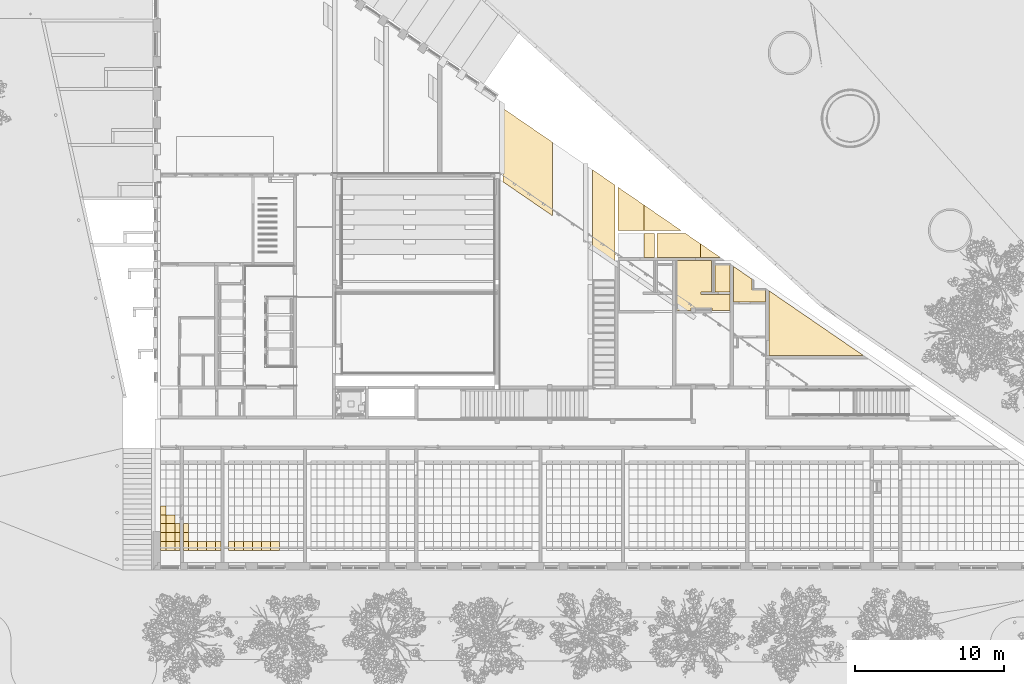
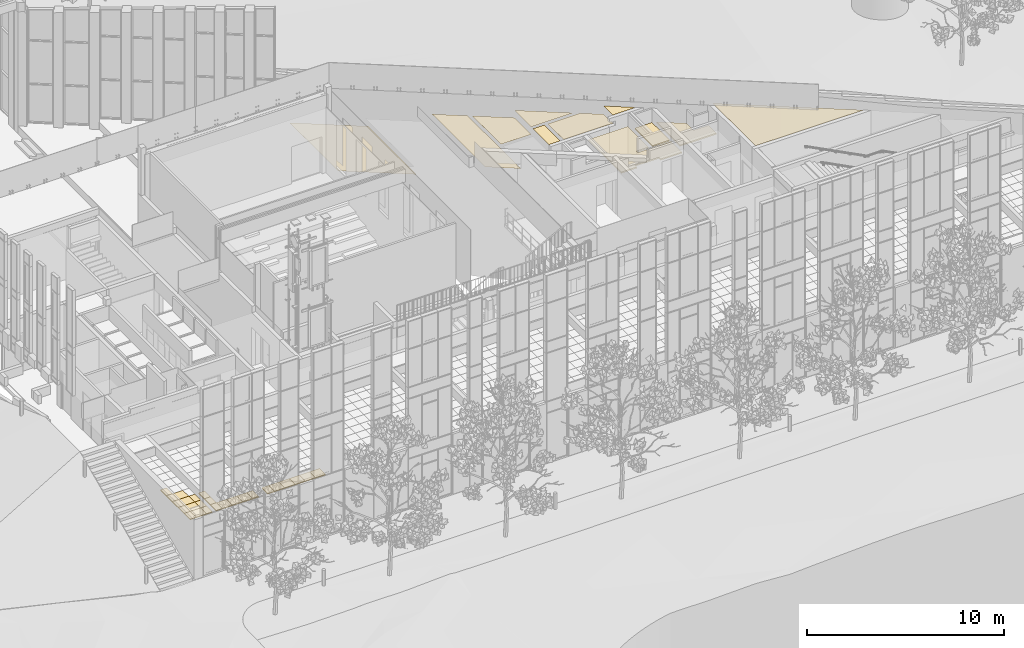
# One storey, part 187 of 246: 36 coverings.
"""IFC2X3 building model written with IfcOpenShell, lengths in millimetres."""

from ifc_helpers import new_model, entity, si_unit, converted_unit, derived_unit, money_unit, direction, frame, origin_with_axes, place, context, subcontext, project, spatial, faceted_brep, material, material_list, type_object, element, save


model = new_model("IFC2X3")

# Units and contexts
model_context = context("Model", 3, precision=0.01, world=origin_with_axes(), true_north=direction((0.0, 1.0)))
body_context = subcontext(model_context, "Body", "Model", "MODEL_VIEW")
ifc_project = project(units=[si_unit("LENGTHUNIT", "METRE", prefix="MILLI"), si_unit("AREAUNIT", "SQUARE_METRE"), si_unit("VOLUMEUNIT", "CUBIC_METRE"), converted_unit("PLANEANGLEUNIT", "DEGREE", entity("IfcPlaneAngleMeasure", 0.0174532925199), si_unit("PLANEANGLEUNIT", "RADIAN"), dimensions=[0, 0, 0, 0, 0, 0, 0]), si_unit("SOLIDANGLEUNIT", "STERADIAN"), money_unit("EUR"), converted_unit("TIMEUNIT", "Year", entity("IfcTimeMeasure", 31556926.0), si_unit("TIMEUNIT", "SECOND"), dimensions=[0, 0, 1, 0, 0, 0, 0]), si_unit("MASSUNIT", "GRAM", prefix="KILO"), si_unit("THERMODYNAMICTEMPERATUREUNIT", "DEGREE_CELSIUS"), si_unit("LUMINOUSINTENSITYUNIT", "LUMEN"), si_unit("ENERGYUNIT", "JOULE", prefix="MEGA"), derived_unit("THERMALCONDUCTANCEUNIT", [(si_unit("POWERUNIT", "WATT"), 1), (si_unit("LENGTHUNIT", "METRE"), -1), (si_unit("THERMODYNAMICTEMPERATUREUNIT", "KELVIN"), -1)]), derived_unit("SPECIFICHEATCAPACITYUNIT", [(si_unit("ENERGYUNIT", "JOULE"), 1), (si_unit("MASSUNIT", "GRAM", prefix="KILO"), -1), (si_unit("THERMODYNAMICTEMPERATUREUNIT", "KELVIN"), -1)]), derived_unit("MASSDENSITYUNIT", [(si_unit("MASSUNIT", "GRAM", prefix="KILO"), 1), (si_unit("VOLUMEUNIT", "CUBIC_METRE"), -1)])], contexts=[model_context])

# Site, building, storey
site_placement = place(None, origin_with_axes())
site = spatial("IfcSite", under=ifc_project, at=site_placement, Name="L.Koidula tn 11b", CompositionType="ELEMENT")
building_placement = place(site_placement, origin_with_axes())
building = spatial("IfcBuilding", under=site, at=building_placement, Name="Rakvere Riigigümnaasium", CompositionType="ELEMENT")
storey_placement = place(building_placement, origin_with_axes())
storey = spatial("IfcBuildingStorey", under=building, at=storey_placement, Name="1.korrus 0,00", CompositionType="ELEMENT", Elevation=0.0)

# Coverings
ifc_material_1 = material(Name="mineraalvill+karkass")
ifc_material_2 = material(Name="SKR-02_Kipsplaat")
ifc_material_list_1 = material_list([ifc_material_1, ifc_material_2])
covering_type_1 = type_object("IfcCoveringType", Name="SA-LV-kips 79", PredefinedType="CEILING")
covering_1_placement = place(storey_placement, frame((72614.9981872, 23588.9421393, 2400.0), z_axis=(0.0, 0.0, 1.0), x_axis=(1.0, 0.0, 0.0)))
element("IfcCovering", 1, at=covering_1_placement, inside=storey, type_object=covering_type_1, material=ifc_material_list_1, Name="L-05", PredefinedType="CEILING", context=body_context, shape_type="Brep", body=[
    faceted_brep([(999.999983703, 0.0, 12.5), (999.999983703, 0.0, 78.5), (0.0, 0.0, 78.5), (0.0, 0.0, 12.5), (999.999983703, 1800.47375207, 12.5), (999.999983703, 1800.47375207, 78.5), (0.0, 1800.47375207, 78.5), (0.0, 1800.47375207, 12.5)], [[[0, 1, 2, 3]], [[4, 5, 1, 0]], [[2, 1, 5, 6]], [[3, 2, 6, 7]], [[3, 7, 4, 0]], [[7, 6, 5, 4]]]),
    faceted_brep([(0.0, 0.0, 0.0), (999.999983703, 0.0, 0.0), (999.999983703, 0.0, 12.5), (0.0, 0.0, 12.5), (0.0, 1800.47375207, 0.0), (999.999983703, 1800.47375207, 0.0), (999.999983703, 1800.47375207, 12.5), (0.0, 1800.47375207, 12.5)], [[[0, 1, 2, 3]], [[0, 4, 5, 1]], [[1, 5, 6, 2]], [[3, 2, 6, 7]], [[4, 0, 3, 7]], [[5, 4, 7, 6]]]),
])
covering_2_placement = place(storey_placement, frame((70071.4873298, 25688.9371917, 2400.0), z_axis=(0.0, 0.0, 1.0), x_axis=(1.0, 0.0, 0.0)))
element("IfcCovering", 2, at=covering_2_placement, inside=storey, type_object=covering_type_1, material=ifc_material_list_1, Name="L-05", PredefinedType="CEILING", context=body_context, shape_type="Brep", body=[
    faceted_brep([(0.0, -3333.48385499, 12.5), (0.0, -3333.48385499, 78.5), (0.0, 0.0, 78.5), (0.0, 0.0, 12.5), (913.510743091, -3333.48385499, 12.5), (913.510743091, -3333.48385499, 78.5), (913.510743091, -3150.17834669, 78.5), (2313.5, -3150.17834669, 78.5), (2313.5, -3333.48385499, 78.5), (3543.5108411, -3333.48385499, 78.5), (3543.5108411, -2257.49461025, 78.5), (1588.51088275, -2257.49461025, 78.5), (1588.51088275, -2107.49461352, 78.5), (2302.01084784, -2107.49461352, 78.5), (2302.01084784, 0.0, 78.5), (1588.51088275, 0.0, 78.5), (1588.51088275, 0.0, 12.5), (2302.01084784, 0.0, 12.5), (2302.01084784, -2107.49461352, 12.5), (1588.51088275, -2107.49461352, 12.5), (1588.51088275, -2257.49461025, 12.5), (3543.5108411, -2257.49461025, 12.5), (3543.5108411, -3333.48385499, 12.5), (2313.5, -3333.48385499, 12.5), (2313.5, -3150.17834669, 12.5), (913.510743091, -3150.17834669, 12.5)], [[[0, 1, 2, 3]], [[4, 5, 1, 0]], [[2, 1, 5, 6, 7, 8, 9, 10, 11, 12, 13, 14, 15]], [[3, 2, 15, 16]], [[3, 16, 17, 18, 19, 20, 21, 22, 23, 24, 25, 4, 0]], [[25, 6, 5, 4]], [[24, 7, 6, 25]], [[23, 8, 7, 24]], [[22, 9, 8, 23]], [[21, 10, 9, 22]], [[20, 11, 10, 21]], [[19, 12, 11, 20]], [[18, 13, 12, 19]], [[17, 14, 13, 18]], [[16, 15, 14, 17]]]),
    faceted_brep([(0.0, 0.0, 0.0), (0.0, -3333.48385499, 0.0), (0.0, -3333.48385499, 12.5), (0.0, 0.0, 12.5), (1588.51088275, 0.0, 0.0), (2302.01084784, 0.0, 0.0), (2302.01084784, -2107.49461352, 0.0), (1588.51088275, -2107.49461352, 0.0), (1588.51088275, -2257.49461025, 0.0), (3543.5108411, -2257.49461025, 0.0), (3543.5108411, -3333.48385499, 0.0), (2313.5, -3333.48385499, 0.0), (2313.5, -3150.17834669, 0.0), (913.510743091, -3150.17834669, 0.0), (913.510743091, -3333.48385499, 0.0), (913.510743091, -3333.48385499, 12.5), (913.510743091, -3150.17834669, 12.5), (2313.5, -3150.17834669, 12.5), (2313.5, -3333.48385499, 12.5), (3543.5108411, -3333.48385499, 12.5), (3543.5108411, -2257.49461025, 12.5), (1588.51088275, -2257.49461025, 12.5), (1588.51088275, -2107.49461352, 12.5), (2302.01084784, -2107.49461352, 12.5), (2302.01084784, 0.0, 12.5), (1588.51088275, 0.0, 12.5)], [[[0, 1, 2, 3]], [[0, 4, 5, 6, 7, 8, 9, 10, 11, 12, 13, 14, 1]], [[1, 14, 15, 2]], [[3, 2, 15, 16, 17, 18, 19, 20, 21, 22, 23, 24, 25]], [[4, 0, 3, 25]], [[5, 4, 25, 24]], [[6, 5, 24, 23]], [[7, 6, 23, 22]], [[8, 7, 22, 21]], [[9, 8, 21, 20]], [[10, 9, 20, 19]], [[11, 10, 19, 18]], [[12, 11, 18, 17]], [[13, 12, 17, 16]], [[14, 13, 16, 15]]]),
])
covering_3_placement = place(storey_placement, frame((73839.9981709, 22929.9371768, 2400.0), z_axis=(0.0, 0.0, 1.0), x_axis=(1.0, 0.0, 0.0)))
element("IfcCovering", 3, at=covering_3_placement, inside=storey, type_object=covering_type_1, material=ifc_material_list_1, Name="L-05", PredefinedType="CEILING", context=body_context, shape_type="Brep", body=[
    faceted_brep([(2139.9514472, 0.0, 12.5), (2139.9514472, 0.0, 78.5), (0.0, 0.0, 78.5), (0.0, 0.0, 12.5), (2139.97882629, 799.999982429, 12.5), (2139.97882629, 799.999982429, 78.5), (1249.95783911, 799.999982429, 78.5), (1249.95783911, 1519.62656609, 78.5), (0.0, 2376.94444894, 78.5), (0.0, 2376.94444894, 12.5), (1249.95783911, 1519.62656609, 12.5), (1249.95783911, 799.999982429, 12.5)], [[[0, 1, 2, 3]], [[4, 5, 1, 0]], [[2, 1, 5, 6, 7, 8]], [[3, 2, 8, 9]], [[3, 9, 10, 11, 4, 0]], [[11, 6, 5, 4]], [[10, 7, 6, 11]], [[9, 8, 7, 10]]]),
    faceted_brep([(0.0, 0.0, 0.0), (2139.9514472, 0.0, 0.0), (2139.9514472, 0.0, 12.5), (0.0, 0.0, 12.5), (0.0, 2376.94444894, 0.0), (1249.95783911, 1519.62656609, 0.0), (1249.95783911, 799.999982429, 0.0), (2139.97882629, 799.999982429, 0.0), (2139.97882629, 799.999982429, 12.5), (1249.95783911, 799.999982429, 12.5), (1249.95783911, 1519.62656609, 12.5), (0.0, 2376.94444894, 12.5)], [[[0, 1, 2, 3]], [[0, 4, 5, 6, 7, 1]], [[1, 7, 8, 2]], [[3, 2, 8, 9, 10, 11]], [[4, 0, 3, 11]], [[5, 4, 11, 10]], [[6, 5, 10, 9]], [[7, 6, 9, 8]]]),
])
ifc_material_3 = material(Name="Karkass")
ifc_material_4 = material(Name="Kipsplaat")
ifc_material_list_2 = material_list([ifc_material_3, ifc_material_4])
covering_type_2 = type_object("IfcCoveringType", Name="SA-LV-Kips-moodul 55", PredefinedType="CEILING")
for number, where, z_axis, x_axis, name in (
    (4, (36455.0000521, 7490.4544728, 2750.0), (0.0, 0.0, 1.0), (1.0, 0.0, 0.0), "L-03"),
    (5, (36455.0000521, 6290.4544728, 2750.0), (0.0, 0.0, 1.0), (1.0, 0.0, 0.0), "L-03"),
    (6, (36455.0000521, 6890.4544728, 2750.0), (0.0, 0.0, 1.0), (1.0, 0.0, 0.0), "L-03"),
):
    element("IfcCovering", number, at=place(storey_placement, frame(where, z_axis=z_axis, x_axis=x_axis)), inside=storey, type_object=covering_type_2, material=ifc_material_list_2, Name=name, PredefinedType="CEILING", context=body_context, shape_type="Brep", body=[
        faceted_brep([(354.999948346, 0.0, 12.5), (354.999948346, 0.0, 54.5), (0.0, 0.0, 54.5), (0.0, 0.0, 12.5), (354.999948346, 600.0, 12.5), (354.999948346, 600.0, 54.5), (0.0, 600.0, 54.5), (0.0, 600.0, 12.5)], [[[0, 1, 2, 3]], [[4, 5, 1, 0]], [[2, 1, 5, 6]], [[3, 2, 6, 7]], [[3, 7, 4, 0]], [[7, 6, 5, 4]]]),
        faceted_brep([(0.0, 0.0, 0.0), (354.999948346, 0.0, 0.0), (354.999948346, 0.0, 12.5), (0.0, 0.0, 12.5), (0.0, 600.0, 0.0), (354.999948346, 600.0, 0.0), (354.999948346, 600.0, 12.5), (0.0, 600.0, 12.5)], [[[0, 1, 2, 3]], [[0, 4, 5, 1]], [[1, 5, 6, 2]], [[3, 2, 6, 7]], [[4, 0, 3, 7]], [[5, 4, 7, 6]]]),
    ])
covering_4_placement = place(storey_placement, frame((35500.0000521, 7490.4544728, 2750.0), z_axis=(0.0, 0.0, 1.0), x_axis=(1.0, 0.0, 0.0)))
element("IfcCovering", 7, at=covering_4_placement, inside=storey, type_object=covering_type_2, material=ifc_material_list_2, Name="L-03", PredefinedType="CEILING", context=body_context, shape_type="Brep", body=[
    faceted_brep([(355.0, 0.0, 12.5), (355.0, 0.0, 54.5), (0.0, 0.0, 54.5), (0.0, 0.0, 12.5), (355.0, 600.0, 12.5), (355.0, 600.0, 54.5), (0.0, 600.0, 54.5), (0.0, 600.0, 12.5)], [[[0, 1, 2, 3]], [[4, 5, 1, 0]], [[2, 1, 5, 6]], [[3, 2, 6, 7]], [[3, 7, 4, 0]], [[7, 6, 5, 4]]]),
    faceted_brep([(0.0, 0.0, 0.0), (355.0, 0.0, 0.0), (355.0, 0.0, 12.5), (0.0, 0.0, 12.5), (0.0, 600.0, 0.0), (355.0, 600.0, 0.0), (355.0, 600.0, 12.5), (0.0, 600.0, 12.5)], [[[0, 1, 2, 3]], [[0, 4, 5, 1]], [[1, 5, 6, 2]], [[3, 2, 6, 7]], [[4, 0, 3, 7]], [[5, 4, 7, 6]]]),
])
covering_5_placement = place(storey_placement, frame((35855.0000521, 7490.4544728, 2750.0), z_axis=(0.0, 0.0, 1.0), x_axis=(1.0, 0.0, 0.0)))
element("IfcCovering", 8, at=covering_5_placement, inside=storey, type_object=covering_type_2, material=ifc_material_list_2, Name="L-03", PredefinedType="CEILING", context=body_context, shape_type="Brep", body=[
    faceted_brep([(600.0, 0.0, 12.5), (600.0, 0.0, 54.5), (0.0, 0.0, 54.5), (0.0, 0.0, 12.5), (600.0, 600.0, 12.5), (600.0, 600.0, 54.5), (0.0, 600.0, 54.5), (0.0, 600.0, 12.5)], [[[0, 1, 2, 3]], [[4, 5, 1, 0]], [[2, 1, 5, 6]], [[3, 2, 6, 7]], [[3, 7, 4, 0]], [[7, 6, 5, 4]]]),
    faceted_brep([(0.0, 0.0, 0.0), (600.0, 0.0, 0.0), (600.0, 0.0, 12.5), (0.0, 0.0, 12.5), (0.0, 600.0, 0.0), (600.0, 600.0, 0.0), (600.0, 600.0, 12.5), (0.0, 600.0, 12.5)], [[[0, 1, 2, 3]], [[0, 4, 5, 1]], [[1, 5, 6, 2]], [[3, 2, 6, 7]], [[4, 0, 3, 7]], [[5, 4, 7, 6]]]),
])
covering_6_placement = place(storey_placement, frame((35500.0000521, 8090.4544728, 2750.0), z_axis=(0.0, 0.0, 1.0), x_axis=(1.0, 0.0, 0.0)))
element("IfcCovering", 9, at=covering_6_placement, inside=storey, type_object=covering_type_2, material=ifc_material_list_2, Name="L-03", PredefinedType="CEILING", context=body_context, shape_type="Brep", body=[
    faceted_brep([(355.0, 0.0, 12.5), (355.0, 0.0, 54.5), (0.0, 0.0, 54.5), (0.0, 0.0, 12.5), (355.0, 600.0, 12.5), (355.0, 600.0, 54.5), (0.0, 600.0, 54.5), (0.0, 600.0, 12.5)], [[[0, 1, 2, 3]], [[4, 5, 1, 0]], [[2, 1, 5, 6]], [[3, 2, 6, 7]], [[3, 7, 4, 0]], [[7, 6, 5, 4]]]),
    faceted_brep([(0.0, 0.0, 0.0), (355.0, 0.0, 0.0), (355.0, 0.0, 12.5), (0.0, 0.0, 12.5), (0.0, 600.0, 0.0), (355.0, 600.0, 0.0), (355.0, 600.0, 12.5), (0.0, 600.0, 12.5)], [[[0, 1, 2, 3]], [[0, 4, 5, 1]], [[1, 5, 6, 2]], [[3, 2, 6, 7]], [[4, 0, 3, 7]], [[5, 4, 7, 6]]]),
])
covering_7_placement = place(storey_placement, frame((35855.0000521, 8090.4544728, 2750.0), z_axis=(0.0, 0.0, 1.0), x_axis=(1.0, 0.0, 0.0)))
element("IfcCovering", 10, at=covering_7_placement, inside=storey, type_object=covering_type_2, material=ifc_material_list_2, Name="L-03", PredefinedType="CEILING", context=body_context, shape_type="Brep", body=[
    faceted_brep([(600.0, 0.0, 12.5), (600.0, 0.0, 54.5), (0.0, 0.0, 54.5), (0.0, 0.0, 12.5), (600.0, 600.0, 12.5), (600.0, 600.0, 54.5), (0.0, 600.0, 54.5), (0.0, 600.0, 12.5)], [[[0, 1, 2, 3]], [[4, 5, 1, 0]], [[2, 1, 5, 6]], [[3, 2, 6, 7]], [[3, 7, 4, 0]], [[7, 6, 5, 4]]]),
    faceted_brep([(0.0, 0.0, 0.0), (600.0, 0.0, 0.0), (600.0, 0.0, 12.5), (0.0, 0.0, 12.5), (0.0, 600.0, 0.0), (600.0, 600.0, 0.0), (600.0, 600.0, 12.5), (0.0, 600.0, 12.5)], [[[0, 1, 2, 3]], [[0, 4, 5, 1]], [[1, 5, 6, 2]], [[3, 2, 6, 7]], [[4, 0, 3, 7]], [[5, 4, 7, 6]]]),
])
for number, where, z_axis, x_axis, name in (
    (11, (35500.0000521, 8690.4544728, 2750.0), (0.0, 0.0, 1.0), (1.0, 0.0, 0.0), "L-03"),
    (12, (35500.0000521, 6290.4544728, 2750.0), (0.0, 0.0, 1.0), (1.0, 0.0, 0.0), "L-03"),
):
    element("IfcCovering", number, at=place(storey_placement, frame(where, z_axis=z_axis, x_axis=x_axis)), inside=storey, type_object=covering_type_2, material=ifc_material_list_2, Name=name, PredefinedType="CEILING", context=body_context, shape_type="Brep", body=[
        faceted_brep([(355.0, 0.0, 12.5), (355.0, 0.0, 54.5), (0.0, 0.0, 54.5), (0.0, 0.0, 12.5), (355.0, 600.0, 12.5), (355.0, 600.0, 54.5), (0.0, 600.0, 54.5), (0.0, 600.0, 12.5)], [[[0, 1, 2, 3]], [[4, 5, 1, 0]], [[2, 1, 5, 6]], [[3, 2, 6, 7]], [[3, 7, 4, 0]], [[7, 6, 5, 4]]]),
        faceted_brep([(0.0, 0.0, 0.0), (355.0, 0.0, 0.0), (355.0, 0.0, 12.5), (0.0, 0.0, 12.5), (0.0, 600.0, 0.0), (355.0, 600.0, 0.0), (355.0, 600.0, 12.5), (0.0, 600.0, 12.5)], [[[0, 1, 2, 3]], [[0, 4, 5, 1]], [[1, 5, 6, 2]], [[3, 2, 6, 7]], [[4, 0, 3, 7]], [[5, 4, 7, 6]]]),
    ])
covering_8_placement = place(storey_placement, frame((35855.0000521, 6290.4544728, 2750.0), z_axis=(0.0, 0.0, 1.0), x_axis=(1.0, 0.0, 0.0)))
element("IfcCovering", 13, at=covering_8_placement, inside=storey, type_object=covering_type_2, material=ifc_material_list_2, Name="L-03", PredefinedType="CEILING", context=body_context, shape_type="Brep", body=[
    faceted_brep([(600.0, 0.0, 12.5), (600.0, 0.0, 54.5), (0.0, 0.0, 54.5), (0.0, 0.0, 12.5), (600.0, 600.0, 12.5), (600.0, 600.0, 54.5), (0.0, 600.0, 54.5), (0.0, 600.0, 12.5)], [[[0, 1, 2, 3]], [[4, 5, 1, 0]], [[2, 1, 5, 6]], [[3, 2, 6, 7]], [[3, 7, 4, 0]], [[7, 6, 5, 4]]]),
    faceted_brep([(0.0, 0.0, 0.0), (600.0, 0.0, 0.0), (600.0, 0.0, 12.5), (0.0, 0.0, 12.5), (0.0, 600.0, 0.0), (600.0, 600.0, 0.0), (600.0, 600.0, 12.5), (0.0, 600.0, 12.5)], [[[0, 1, 2, 3]], [[0, 4, 5, 1]], [[1, 5, 6, 2]], [[3, 2, 6, 7]], [[4, 0, 3, 7]], [[5, 4, 7, 6]]]),
])
covering_9_placement = place(storey_placement, frame((35500.0000521, 6890.4544728, 2750.0), z_axis=(0.0, 0.0, 1.0), x_axis=(1.0, 0.0, 0.0)))
element("IfcCovering", 14, at=covering_9_placement, inside=storey, type_object=covering_type_2, material=ifc_material_list_2, Name="L-03", PredefinedType="CEILING", context=body_context, shape_type="Brep", body=[
    faceted_brep([(355.0, 0.0, 12.5), (355.0, 0.0, 54.5), (0.0, 0.0, 54.5), (0.0, 0.0, 12.5), (355.0, 600.0, 12.5), (355.0, 600.0, 54.5), (0.0, 600.0, 54.5), (0.0, 600.0, 12.5)], [[[0, 1, 2, 3]], [[4, 5, 1, 0]], [[2, 1, 5, 6]], [[3, 2, 6, 7]], [[3, 7, 4, 0]], [[7, 6, 5, 4]]]),
    faceted_brep([(0.0, 0.0, 0.0), (355.0, 0.0, 0.0), (355.0, 0.0, 12.5), (0.0, 0.0, 12.5), (0.0, 600.0, 0.0), (355.0, 600.0, 0.0), (355.0, 600.0, 12.5), (0.0, 600.0, 12.5)], [[[0, 1, 2, 3]], [[0, 4, 5, 1]], [[1, 5, 6, 2]], [[3, 2, 6, 7]], [[4, 0, 3, 7]], [[5, 4, 7, 6]]]),
])
covering_10_placement = place(storey_placement, frame((35855.0000521, 6890.4544728, 2750.0), z_axis=(0.0, 0.0, 1.0), x_axis=(1.0, 0.0, 0.0)))
element("IfcCovering", 15, at=covering_10_placement, inside=storey, type_object=covering_type_2, material=ifc_material_list_2, Name="L-03", PredefinedType="CEILING", context=body_context, shape_type="Brep", body=[
    faceted_brep([(600.0, 0.0, 12.5), (600.0, 0.0, 54.5), (0.0, 0.0, 54.5), (0.0, 0.0, 12.5), (600.0, 600.0, 12.5), (600.0, 600.0, 54.5), (0.0, 600.0, 54.5), (0.0, 600.0, 12.5)], [[[0, 1, 2, 3]], [[4, 5, 1, 0]], [[2, 1, 5, 6]], [[3, 2, 6, 7]], [[3, 7, 4, 0]], [[7, 6, 5, 4]]]),
    faceted_brep([(0.0, 0.0, 0.0), (600.0, 0.0, 0.0), (600.0, 0.0, 12.5), (0.0, 0.0, 12.5), (0.0, 600.0, 0.0), (600.0, 600.0, 0.0), (600.0, 600.0, 12.5), (0.0, 600.0, 12.5)], [[[0, 1, 2, 3]], [[0, 4, 5, 1]], [[1, 5, 6, 2]], [[3, 2, 6, 7]], [[4, 0, 3, 7]], [[5, 4, 7, 6]]]),
])
covering_11_placement = place(storey_placement, frame((37380.0000024, 6290.45796731, 2750.0), z_axis=(0.0, 0.0, 1.0), x_axis=(1.0, 0.0, 0.0)))
element("IfcCovering", 16, at=covering_11_placement, inside=storey, type_object=covering_type_2, material=ifc_material_list_2, Name="L-03", PredefinedType="CEILING", context=body_context, shape_type="Brep", body=[
    faceted_brep([(599.999948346, 0.0, 12.5), (599.999948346, 0.0, 54.5), (0.0, 0.0, 54.5), (0.0, 0.0, 12.5), (599.999948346, 600.0, 12.5), (599.999948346, 600.0, 54.5), (0.0, 600.0, 54.5), (0.0, 600.0, 12.5)], [[[0, 1, 2, 3]], [[4, 5, 1, 0]], [[2, 1, 5, 6]], [[3, 2, 6, 7]], [[3, 7, 4, 0]], [[7, 6, 5, 4]]]),
    faceted_brep([(0.0, 0.0, 0.0), (599.999948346, 0.0, 0.0), (599.999948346, 0.0, 12.5), (0.0, 0.0, 12.5), (0.0, 600.0, 0.0), (599.999948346, 600.0, 0.0), (599.999948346, 600.0, 12.5), (0.0, 600.0, 12.5)], [[[0, 1, 2, 3]], [[0, 4, 5, 1]], [[1, 5, 6, 2]], [[3, 2, 6, 7]], [[4, 0, 3, 7]], [[5, 4, 7, 6]]]),
])
for number, where, z_axis, x_axis, name in (
    (17, (37030.0000024, 7490.45796731, 2750.0), (0.0, 0.0, 1.0), (1.0, 0.0, 0.0), "L-03"),
    (18, (37030.0000024, 6290.45796731, 2750.0), (0.0, 0.0, 1.0), (1.0, 0.0, 0.0), "L-03"),
    (19, (37030.0000024, 6890.45796731, 2750.0), (0.0, 0.0, 1.0), (1.0, 0.0, 0.0), "L-03"),
):
    element("IfcCovering", number, at=place(storey_placement, frame(where, z_axis=z_axis, x_axis=x_axis)), inside=storey, type_object=covering_type_2, material=ifc_material_list_2, Name=name, PredefinedType="CEILING", context=body_context, shape_type="Brep", body=[
        faceted_brep([(350.0, 0.0, 12.5), (350.0, 0.0, 54.5), (0.0, 0.0, 54.5), (0.0, 0.0, 12.5), (350.0, 600.0, 12.5), (350.0, 600.0, 54.5), (0.0, 600.0, 54.5), (0.0, 600.0, 12.5)], [[[0, 1, 2, 3]], [[4, 5, 1, 0]], [[2, 1, 5, 6]], [[3, 2, 6, 7]], [[3, 7, 4, 0]], [[7, 6, 5, 4]]]),
        faceted_brep([(0.0, 0.0, 0.0), (350.0, 0.0, 0.0), (350.0, 0.0, 12.5), (0.0, 0.0, 12.5), (0.0, 600.0, 0.0), (350.0, 600.0, 0.0), (350.0, 600.0, 12.5), (0.0, 600.0, 12.5)], [[[0, 1, 2, 3]], [[0, 4, 5, 1]], [[1, 5, 6, 2]], [[3, 2, 6, 7]], [[4, 0, 3, 7]], [[5, 4, 7, 6]]]),
    ])
covering_12_placement = place(storey_placement, frame((38579.9999508, 6290.45796731, 2750.0), z_axis=(0.0, 0.0, 1.0), x_axis=(1.0, 0.0, 0.0)))
element("IfcCovering", 20, at=covering_12_placement, inside=storey, type_object=covering_type_2, material=ifc_material_list_2, Name="L-03", PredefinedType="CEILING", context=body_context, shape_type="Brep", body=[
    faceted_brep([(599.999948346, 0.0, 12.5), (599.999948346, 0.0, 54.5), (0.0, 0.0, 54.5), (0.0, 0.0, 12.5), (599.999948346, 600.0, 12.5), (599.999948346, 600.0, 54.5), (0.0, 600.0, 54.5), (0.0, 600.0, 12.5)], [[[0, 1, 2, 3]], [[4, 5, 1, 0]], [[2, 1, 5, 6]], [[3, 2, 6, 7]], [[3, 7, 4, 0]], [[7, 6, 5, 4]]]),
    faceted_brep([(0.0, 0.0, 0.0), (599.999948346, 0.0, 0.0), (599.999948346, 0.0, 12.5), (0.0, 0.0, 12.5), (0.0, 600.0, 0.0), (599.999948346, 600.0, 0.0), (599.999948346, 600.0, 12.5), (0.0, 600.0, 12.5)], [[[0, 1, 2, 3]], [[0, 4, 5, 1]], [[1, 5, 6, 2]], [[3, 2, 6, 7]], [[4, 0, 3, 7]], [[5, 4, 7, 6]]]),
])
covering_13_placement = place(storey_placement, frame((37979.9999508, 6290.45796731, 2750.0), z_axis=(0.0, 0.0, 1.0), x_axis=(1.0, 0.0, 0.0)))
element("IfcCovering", 21, at=covering_13_placement, inside=storey, type_object=covering_type_2, material=ifc_material_list_2, Name="L-03", PredefinedType="CEILING", context=body_context, shape_type="Brep", body=[
    faceted_brep([(600.0, 0.0, 12.5), (600.0, 0.0, 54.5), (0.0, 0.0, 54.5), (0.0, 0.0, 12.5), (600.0, 600.0, 12.5), (600.0, 600.0, 54.5), (0.0, 600.0, 54.5), (0.0, 600.0, 12.5)], [[[0, 1, 2, 3]], [[4, 5, 1, 0]], [[2, 1, 5, 6]], [[3, 2, 6, 7]], [[3, 7, 4, 0]], [[7, 6, 5, 4]]]),
    faceted_brep([(0.0, 0.0, 0.0), (600.0, 0.0, 0.0), (600.0, 0.0, 12.5), (0.0, 0.0, 12.5), (0.0, 600.0, 0.0), (600.0, 600.0, 0.0), (600.0, 600.0, 12.5), (0.0, 600.0, 12.5)], [[[0, 1, 2, 3]], [[0, 4, 5, 1]], [[1, 5, 6, 2]], [[3, 2, 6, 7]], [[4, 0, 3, 7]], [[5, 4, 7, 6]]]),
])
covering_14_placement = place(storey_placement, frame((39179.9998991, 6290.45796731, 2750.0), z_axis=(0.0, 0.0, 1.0), x_axis=(1.0, 0.0, 0.0)))
element("IfcCovering", 22, at=covering_14_placement, inside=storey, type_object=covering_type_2, material=ifc_material_list_2, Name="L-03", PredefinedType="CEILING", context=body_context, shape_type="Brep", body=[
    faceted_brep([(350.000101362, 0.0, 12.5), (350.000101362, 0.0, 54.5), (0.0, 0.0, 54.5), (0.0, 0.0, 12.5), (350.000101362, 600.0, 12.5), (350.000101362, 600.0, 54.5), (0.0, 600.0, 54.5), (0.0, 600.0, 12.5)], [[[0, 1, 2, 3]], [[4, 5, 1, 0]], [[2, 1, 5, 6]], [[3, 2, 6, 7]], [[3, 7, 4, 0]], [[7, 6, 5, 4]]]),
    faceted_brep([(0.0, 0.0, 0.0), (350.000101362, 0.0, 0.0), (350.000101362, 0.0, 12.5), (0.0, 0.0, 12.5), (0.0, 600.0, 0.0), (350.000101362, 600.0, 0.0), (350.000101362, 600.0, 12.5), (0.0, 600.0, 12.5)], [[[0, 1, 2, 3]], [[0, 4, 5, 1]], [[1, 5, 6, 2]], [[3, 2, 6, 7]], [[4, 0, 3, 7]], [[5, 4, 7, 6]]]),
])
covering_15_placement = place(storey_placement, frame((40450.0011648, 6290.45359412, 2750.0), z_axis=(0.0, 0.0, 1.0), x_axis=(1.0, 0.0, 0.0)))
element("IfcCovering", 23, at=covering_15_placement, inside=storey, type_object=covering_type_2, material=ifc_material_list_2, Name="L-03", PredefinedType="CEILING", context=body_context, shape_type="Brep", body=[
    faceted_brep([(599.999948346, 0.0, 12.5), (599.999948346, 0.0, 54.5), (0.0, 0.0, 54.5), (0.0, 0.0, 12.5), (599.999948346, 600.0, 12.5), (599.999948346, 600.0, 54.5), (0.0, 600.0, 54.5), (0.0, 600.0, 12.5)], [[[0, 1, 2, 3]], [[4, 5, 1, 0]], [[2, 1, 5, 6]], [[3, 2, 6, 7]], [[3, 7, 4, 0]], [[7, 6, 5, 4]]]),
    faceted_brep([(0.0, 0.0, 0.0), (599.999948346, 0.0, 0.0), (599.999948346, 0.0, 12.5), (0.0, 0.0, 12.5), (0.0, 600.0, 0.0), (599.999948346, 600.0, 0.0), (599.999948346, 600.0, 12.5), (0.0, 600.0, 12.5)], [[[0, 1, 2, 3]], [[0, 4, 5, 1]], [[1, 5, 6, 2]], [[3, 2, 6, 7]], [[4, 0, 3, 7]], [[5, 4, 7, 6]]]),
])
covering_16_placement = place(storey_placement, frame((40049.9999972, 6290.45359412, 2750.0), z_axis=(0.0, 0.0, 1.0), x_axis=(1.0, 0.0, 0.0)))
element("IfcCovering", 24, at=covering_16_placement, inside=storey, type_object=covering_type_2, material=ifc_material_list_2, Name="L-03", PredefinedType="CEILING", context=body_context, shape_type="Brep", body=[
    faceted_brep([(400.001167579, 0.0, 12.5), (400.001167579, 0.0, 54.5), (0.0, 0.0, 54.5), (0.0, 0.0, 12.5), (400.001167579, 600.0, 12.5), (400.001167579, 600.0, 54.5), (0.0, 600.0, 54.5), (0.0, 600.0, 12.5)], [[[0, 1, 2, 3]], [[4, 5, 1, 0]], [[2, 1, 5, 6]], [[3, 2, 6, 7]], [[3, 7, 4, 0]], [[7, 6, 5, 4]]]),
    faceted_brep([(0.0, 0.0, 0.0), (400.001167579, 0.0, 0.0), (400.001167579, 0.0, 12.5), (0.0, 0.0, 12.5), (0.0, 600.0, 0.0), (400.001167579, 600.0, 0.0), (400.001167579, 600.0, 12.5), (0.0, 600.0, 12.5)], [[[0, 1, 2, 3]], [[0, 4, 5, 1]], [[1, 5, 6, 2]], [[3, 2, 6, 7]], [[4, 0, 3, 7]], [[5, 4, 7, 6]]]),
])
covering_17_placement = place(storey_placement, frame((41650.0011131, 6290.45359412, 2750.0), z_axis=(0.0, 0.0, 1.0), x_axis=(1.0, 0.0, 0.0)))
element("IfcCovering", 25, at=covering_17_placement, inside=storey, type_object=covering_type_2, material=ifc_material_list_2, Name="L-03", PredefinedType="CEILING", context=body_context, shape_type="Brep", body=[
    faceted_brep([(599.999948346, 0.0, 12.5), (599.999948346, 0.0, 54.5), (0.0, 0.0, 54.5), (0.0, 0.0, 12.5), (599.999948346, 600.0, 12.5), (599.999948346, 600.0, 54.5), (0.0, 600.0, 54.5), (0.0, 600.0, 12.5)], [[[0, 1, 2, 3]], [[4, 5, 1, 0]], [[2, 1, 5, 6]], [[3, 2, 6, 7]], [[3, 7, 4, 0]], [[7, 6, 5, 4]]]),
    faceted_brep([(0.0, 0.0, 0.0), (599.999948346, 0.0, 0.0), (599.999948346, 0.0, 12.5), (0.0, 0.0, 12.5), (0.0, 600.0, 0.0), (599.999948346, 600.0, 0.0), (599.999948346, 600.0, 12.5), (0.0, 600.0, 12.5)], [[[0, 1, 2, 3]], [[0, 4, 5, 1]], [[1, 5, 6, 2]], [[3, 2, 6, 7]], [[4, 0, 3, 7]], [[5, 4, 7, 6]]]),
])
covering_18_placement = place(storey_placement, frame((41050.0011131, 6290.45359412, 2750.0), z_axis=(0.0, 0.0, 1.0), x_axis=(1.0, 0.0, 0.0)))
element("IfcCovering", 26, at=covering_18_placement, inside=storey, type_object=covering_type_2, material=ifc_material_list_2, Name="L-03", PredefinedType="CEILING", context=body_context, shape_type="Brep", body=[
    faceted_brep([(600.0, 0.0, 12.5), (600.0, 0.0, 54.5), (0.0, 0.0, 54.5), (0.0, 0.0, 12.5), (600.0, 600.0, 12.5), (600.0, 600.0, 54.5), (0.0, 600.0, 54.5), (0.0, 600.0, 12.5)], [[[0, 1, 2, 3]], [[4, 5, 1, 0]], [[2, 1, 5, 6]], [[3, 2, 6, 7]], [[3, 7, 4, 0]], [[7, 6, 5, 4]]]),
    faceted_brep([(0.0, 0.0, 0.0), (600.0, 0.0, 0.0), (600.0, 0.0, 12.5), (0.0, 0.0, 12.5), (0.0, 600.0, 0.0), (600.0, 600.0, 0.0), (600.0, 600.0, 12.5), (0.0, 600.0, 12.5)], [[[0, 1, 2, 3]], [[0, 4, 5, 1]], [[1, 5, 6, 2]], [[3, 2, 6, 7]], [[4, 0, 3, 7]], [[5, 4, 7, 6]]]),
])
covering_19_placement = place(storey_placement, frame((42850.0010615, 6290.45359412, 2750.0), z_axis=(0.0, 0.0, 1.0), x_axis=(1.0, 0.0, 0.0)))
element("IfcCovering", 27, at=covering_19_placement, inside=storey, type_object=covering_type_2, material=ifc_material_list_2, Name="L-03", PredefinedType="CEILING", context=body_context, shape_type="Brep", body=[
    faceted_brep([(599.999948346, 0.0, 12.5), (599.999948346, 0.0, 54.5), (0.0, 0.0, 54.5), (0.0, 0.0, 12.5), (599.999948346, 600.0, 12.5), (599.999948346, 600.0, 54.5), (0.0, 600.0, 54.5), (0.0, 600.0, 12.5)], [[[0, 1, 2, 3]], [[4, 5, 1, 0]], [[2, 1, 5, 6]], [[3, 2, 6, 7]], [[3, 7, 4, 0]], [[7, 6, 5, 4]]]),
    faceted_brep([(0.0, 0.0, 0.0), (599.999948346, 0.0, 0.0), (599.999948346, 0.0, 12.5), (0.0, 0.0, 12.5), (0.0, 600.0, 0.0), (599.999948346, 600.0, 0.0), (599.999948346, 600.0, 12.5), (0.0, 600.0, 12.5)], [[[0, 1, 2, 3]], [[0, 4, 5, 1]], [[1, 5, 6, 2]], [[3, 2, 6, 7]], [[4, 0, 3, 7]], [[5, 4, 7, 6]]]),
])
covering_20_placement = place(storey_placement, frame((42250.0010615, 6290.45359412, 2750.0), z_axis=(0.0, 0.0, 1.0), x_axis=(1.0, 0.0, 0.0)))
element("IfcCovering", 28, at=covering_20_placement, inside=storey, type_object=covering_type_2, material=ifc_material_list_2, Name="L-03", PredefinedType="CEILING", context=body_context, shape_type="Brep", body=[
    faceted_brep([(600.0, 0.0, 12.5), (600.0, 0.0, 54.5), (0.0, 0.0, 54.5), (0.0, 0.0, 12.5), (600.0, 600.0, 12.5), (600.0, 600.0, 54.5), (0.0, 600.0, 54.5), (0.0, 600.0, 12.5)], [[[0, 1, 2, 3]], [[4, 5, 1, 0]], [[2, 1, 5, 6]], [[3, 2, 6, 7]], [[3, 7, 4, 0]], [[7, 6, 5, 4]]]),
    faceted_brep([(0.0, 0.0, 0.0), (600.0, 0.0, 0.0), (600.0, 0.0, 12.5), (0.0, 0.0, 12.5), (0.0, 600.0, 0.0), (600.0, 600.0, 0.0), (600.0, 600.0, 12.5), (0.0, 600.0, 12.5)], [[[0, 1, 2, 3]], [[0, 4, 5, 1]], [[1, 5, 6, 2]], [[3, 2, 6, 7]], [[4, 0, 3, 7]], [[5, 4, 7, 6]]]),
])
ifc_material_5 = material(Name="Tolmutõke")
covering_type_3 = type_object("IfcCoveringType", Name="Tolmutõke 1", PredefinedType="CLADDING")
covering_21_placement = place(storey_placement, frame((82531.7988937, 19345.3890009, 3789.99999702), z_axis=(0.0, 0.0, 1.0), x_axis=(1.0, 0.0, 0.0)))
element("IfcCovering", 29, at=covering_21_placement, inside=storey, type_object=covering_type_3, material=ifc_material_5, Name="L-07", PredefinedType="CLADDING", context=body_context, shape_type="Brep", body=[
    faceted_brep([(0.0, 0.0, 0.0), (0.0, 0.0, -1.0), (-6331.82190185, 4342.85144293, -1.0), (-6331.82190185, 4342.85144293, 0.0), (-6331.82190185, 0.0, 0.0), (-6331.82190185, 0.0, -1.0)], [[[0, 1, 2, 3]], [[4, 5, 1, 0]], [[2, 1, 5]], [[3, 2, 5, 4]], [[4, 0, 3]]]),
])
covering_22_placement = place(storey_placement, frame((68734.9692341, 27511.4129825, 2810.0), z_axis=(0.0, 0.0, 1.0), x_axis=(1.0, 0.0, 0.0)))
element("IfcCovering", 30, at=covering_22_placement, inside=storey, type_object=covering_type_3, material=ifc_material_5, Name="L-07", PredefinedType="CLADDING", context=body_context, shape_type="Brep", body=[
    faceted_brep([(-109.444757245, 0.0, 0.0), (-109.444757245, 0.0, -1.0), (-109.444757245, -0.500009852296, -1.0), (-109.444757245, -0.500009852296, 0.0), (1890.85221125, 0.0, 0.0), (1890.85221125, 0.0, -1.0), (2885.02888798, -681.883354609, -1.0), (2885.02886673, -1599.97580569, -1.0), (0.0, -1599.97580569, -1.0), (0.0, -0.500009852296, -1.0), (0.0, -0.500009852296, 0.0), (0.0, -1599.97580569, 0.0), (2885.02886673, -1599.97580569, 0.0), (2885.02888798, -681.883354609, 0.0)], [[[0, 1, 2, 3]], [[4, 5, 1, 0]], [[1, 5, 6, 7, 8, 9, 2]], [[3, 2, 9, 10]], [[4, 0, 3, 10, 11, 12, 13]], [[13, 6, 5, 4]], [[12, 7, 6, 13]], [[11, 8, 7, 12]], [[10, 9, 8, 11]]]),
])
covering_23_placement = place(storey_placement, frame((67540.6599186, 29627.4557498, 2345.0), z_axis=(0.0, 0.0, 1.0), x_axis=(1.0, 0.0, 0.0)))
element("IfcCovering", 31, at=covering_23_placement, inside=storey, type_object=covering_type_3, material=ifc_material_5, Name="L-07", PredefinedType="CLADDING", context=body_context, shape_type="Brep", body=[
    faceted_brep([(-1440.6618457, 988.117449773, 0.0), (-1440.6618457, 988.117449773, -1.0), (-1440.6618457, -1916.04276314, -1.0), (-1440.6618457, -1916.04276314, 0.0), (324.349583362, -222.464070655, 0.0), (324.349583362, -222.464070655, -1.0), (324.349583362, -1916.04276314, -1.0), (324.349583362, -1916.04276314, 0.0)], [[[0, 1, 2, 3]], [[4, 5, 1, 0]], [[1, 5, 6, 2]], [[3, 2, 6, 7]], [[4, 0, 3, 7]], [[7, 6, 5, 4]]]),
])
covering_24_placement = place(storey_placement, frame((71619.9981008, 25911.4371768, 3325.0), z_axis=(0.0, 0.0, 1.0), x_axis=(1.0, 0.0, 0.0)))
element("IfcCovering", 32, at=covering_24_placement, inside=storey, type_object=covering_type_3, material=ifc_material_5, Name="L-07", PredefinedType="CLADDING", context=body_context, shape_type="Brep", body=[
    faceted_brep([(0.0, 0.0, 0.0), (0.0, 0.0, -1.0), (1338.56630059, 0.0, -1.0), (1338.56630059, 0.0, 0.0), (2.1256013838e-05, 918.092451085, 0.0), (2.1256013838e-05, 918.092451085, -1.0)], [[[0, 1, 2, 3]], [[4, 5, 1, 0]], [[2, 1, 5]], [[3, 2, 5, 4]], [[4, 0, 3]]]),
])
covering_25_placement = place(storey_placement, frame((67865.0095019, 27711.4129866, 2810.0), z_axis=(0.0, 0.0, 1.0), x_axis=(1.0, 0.0, 0.0)))
element("IfcCovering", 33, at=covering_25_placement, inside=storey, type_object=covering_type_3, material=ifc_material_5, Name="L-07", PredefinedType="CLADDING", context=body_context, shape_type="Brep", body=[
    faceted_brep([(0.0, 0.0, 0.0), (0.0, 0.0, -1.0), (2469.21465421, 0.0, -1.0), (2469.21465421, 0.0, 0.0), (0.0, 1693.57869248, 0.0), (0.0, 1693.57869248, -1.0)], [[[0, 1, 2, 3]], [[4, 5, 1, 0]], [[1, 5, 2]], [[3, 2, 5, 4]], [[4, 0, 3]]]),
])
covering_26_placement = place(storey_placement, frame((65889.9979786, 25358.1250057, 2345.0), z_axis=(0.0, 0.0, 1.0), x_axis=(1.0, 0.0, 0.0)))
element("IfcCovering", 34, at=covering_26_placement, inside=storey, type_object=covering_type_3, material=ifc_material_5, Name="L-07", PredefinedType="CLADDING", context=body_context, shape_type="Brep", body=[
    faceted_brep([(0.0, 0.0, 0.0), (0.0, 0.0, -1.0), (0.0, 342.812168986, -1.0), (0.0, 342.812168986, 0.0), (-1479.99797829, 1015.03201105, 0.0), (-1479.99797829, 1015.03201105, -1.0), (-1479.99797829, 6416.57958647, -1.0), (10.0000431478, 5394.62357809, -1.0), (10.0000431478, 342.812168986, -1.0), (10.0000431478, 342.812168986, 0.0), (10.0000431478, 5394.62357809, 0.0), (-1479.99797829, 6416.57958647, 0.0)], [[[0, 1, 2, 3]], [[4, 5, 1, 0]], [[2, 1, 5, 6, 7, 8]], [[3, 2, 8, 9]], [[4, 0, 3, 9, 10, 11]], [[11, 6, 5, 4]], [[10, 7, 6, 11]], [[9, 8, 7, 10]]]),
])
covering_27_placement = place(storey_placement, frame((67865.0095019, 25898.9373962, 2810.0), z_axis=(0.0, 0.0, 1.0), x_axis=(1.0, 0.0, 0.0)))
element("IfcCovering", 35, at=covering_27_placement, inside=storey, type_object=covering_type_3, material=ifc_material_5, Name="L-07", PredefinedType="CLADDING", context=body_context, shape_type="Brep", body=[
    faceted_brep([(0.0, 0.0, 0.0), (0.0, 0.0, -1.0), (669.959822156, 0.0, -1.0), (669.959822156, 0.0, 0.0), (0.0, 1612.47564594, 0.0), (0.0, 1612.47564594, -1.0), (669.959822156, 1612.47564594, -1.0), (669.959822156, 1612.47564594, 0.0)], [[[0, 1, 2, 3]], [[4, 5, 1, 0]], [[2, 1, 5, 6]], [[3, 2, 6, 7]], [[4, 0, 3, 7]], [[7, 6, 5, 4]]]),
])
covering_28_placement = place(storey_placement, frame((60984.5644374, 34124.1338079, 1415.0), z_axis=(0.0, 0.0, 1.0), x_axis=(1.0, 0.0, 0.0)))
element("IfcCovering", 36, at=covering_28_placement, inside=storey, type_object=covering_type_3, material=ifc_material_5, Name="L-07", PredefinedType="CLADDING", context=body_context, shape_type="Brep", body=[
    faceted_brep([(-2559.94879697, 1755.81110367, 0.0), (-2559.94879697, 1755.81110367, -1.0), (-2559.94849315, -3162.6016763, -1.0), (-2559.94849315, -3162.6016763, 0.0), (725.44519332, -497.566515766, 0.0), (725.44519332, -497.566515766, -1.0), (725.433040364, -5415.83695252, -1.0), (725.433040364, -5415.83695252, 0.0)], [[[0, 1, 2, 3]], [[4, 5, 1, 0]], [[1, 5, 6, 2]], [[3, 2, 6, 7]], [[4, 0, 3, 7]], [[7, 6, 5, 4]]]),
])

save(model, "model.ifc")
